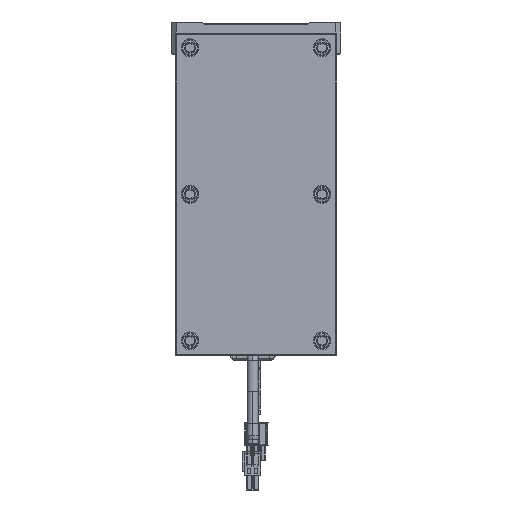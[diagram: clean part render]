
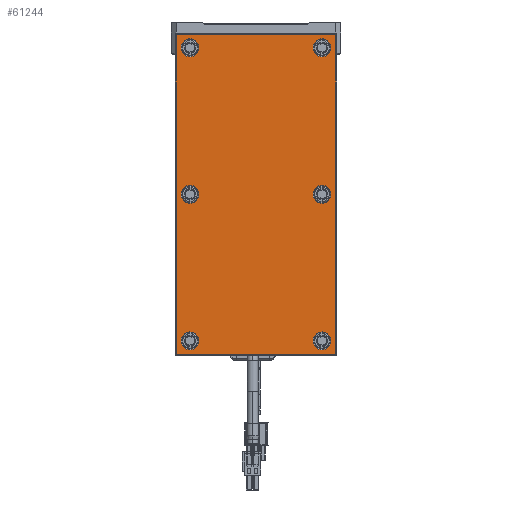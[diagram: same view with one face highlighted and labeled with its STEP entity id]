
A CAD part, front view. The second image highlights one B-rep face of the part: STEP entity #61244.
In plain terms, the highlighted planar face has unit normal (0, -1, 0).
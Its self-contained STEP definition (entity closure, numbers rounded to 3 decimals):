
#59833=CARTESIAN_POINT('',(99.,-7.,-49.));
#59834=DIRECTION('',(0.,-1.,0.));
#59835=DIRECTION('',(0.,0.,-1.));
#59836=AXIS2_PLACEMENT_3D('',#59833,#59834,#59835);
#59838=DIRECTION('',(1.,0.,0.));
#59839=VECTOR('',#59838,198.);
#59840=CARTESIAN_POINT('',(-99.,-7.,
-49.5));
#59841=LINE('',#59840,#59839);
#59842=CARTESIAN_POINT('',(-99.,-7.,-49.));
#59843=DIRECTION('',(0.,-1.,0.));
#59844=DIRECTION('',(-1.,0.,0.));
#59845=AXIS2_PLACEMENT_3D('',#59842,#59843,#59844);
#59847=DIRECTION('',(0.,0.,-1.));
#59848=VECTOR('',#59847,98.);
#59849=CARTESIAN_POINT('',(-99.5,-7.,
49.));
#59850=LINE('',#59849,#59848);
#59851=CARTESIAN_POINT('',(-99.,-7.,49.));
#59852=DIRECTION('',(0.,-1.,0.));
#59853=DIRECTION('',(0.,0.,1.));
#59854=AXIS2_PLACEMENT_3D('',#59851,#59852,#59853);
#59856=DIRECTION('',(-1.,0.,0.));
#59857=VECTOR('',#59856,198.);
#59858=CARTESIAN_POINT('',(99.,-7.,
49.5));
#59859=LINE('',#59858,#59857);
#59860=CARTESIAN_POINT('',(99.,-7.,49.));
#59861=DIRECTION('',(0.,-1.,0.));
#59862=DIRECTION('',(1.,0.,0.));
#59863=AXIS2_PLACEMENT_3D('',#59860,#59861,#59862);
#59865=DIRECTION('',(0.,0.,1.));
#59866=VECTOR('',#59865,98.);
#59867=CARTESIAN_POINT('',(99.5,-7.,
-49.));
#59868=LINE('',#59867,#59866);
#59869=CARTESIAN_POINT('',(-91.,-7.,-41.));
#59870=DIRECTION('',(0.,1.,0.));
#59871=DIRECTION('',(1.,0.,0.));
#59872=AXIS2_PLACEMENT_3D('',#59869,#59870,#59871);
#59874=CARTESIAN_POINT('',(-91.,-7.,-41.));
#59875=DIRECTION('',(0.,1.,0.));
#59876=DIRECTION('',(-1.,0.,0.));
#59877=AXIS2_PLACEMENT_3D('',#59874,#59875,#59876);
#59879=CARTESIAN_POINT('',(0.,-7.,-41.));
#59880=DIRECTION('',(0.,1.,0.));
#59881=DIRECTION('',(1.,0.,0.));
#59882=AXIS2_PLACEMENT_3D('',#59879,#59880,#59881);
#59884=CARTESIAN_POINT('',(0.,-7.,-41.));
#59885=DIRECTION('',(0.,1.,0.));
#59886=DIRECTION('',(-1.,0.,0.));
#59887=AXIS2_PLACEMENT_3D('',#59884,#59885,#59886);
#59889=CARTESIAN_POINT('',(91.,-7.,-41.));
#59890=DIRECTION('',(0.,1.,0.));
#59891=DIRECTION('',(1.,0.,0.));
#59892=AXIS2_PLACEMENT_3D('',#59889,#59890,#59891);
#59894=CARTESIAN_POINT('',(91.,-7.,-41.));
#59895=DIRECTION('',(0.,1.,0.));
#59896=DIRECTION('',(-1.,0.,0.));
#59897=AXIS2_PLACEMENT_3D('',#59894,#59895,#59896);
#59899=CARTESIAN_POINT('',(91.,-7.,41.));
#59900=DIRECTION('',(0.,1.,0.));
#59901=DIRECTION('',(1.,0.,0.));
#59902=AXIS2_PLACEMENT_3D('',#59899,#59900,#59901);
#59904=CARTESIAN_POINT('',(91.,-7.,41.));
#59905=DIRECTION('',(0.,1.,0.));
#59906=DIRECTION('',(-1.,0.,0.));
#59907=AXIS2_PLACEMENT_3D('',#59904,#59905,#59906);
#59909=CARTESIAN_POINT('',(0.,-7.,41.));
#59910=DIRECTION('',(0.,1.,0.));
#59911=DIRECTION('',(1.,0.,0.));
#59912=AXIS2_PLACEMENT_3D('',#59909,#59910,#59911);
#59914=CARTESIAN_POINT('',(0.,-7.,41.));
#59915=DIRECTION('',(0.,1.,0.));
#59916=DIRECTION('',(-1.,0.,0.));
#59917=AXIS2_PLACEMENT_3D('',#59914,#59915,#59916);
#59919=CARTESIAN_POINT('',(-91.,-7.,41.));
#59920=DIRECTION('',(0.,1.,0.));
#59921=DIRECTION('',(1.,0.,0.));
#59922=AXIS2_PLACEMENT_3D('',#59919,#59920,#59921);
#59924=CARTESIAN_POINT('',(-91.,-7.,41.));
#59925=DIRECTION('',(0.,1.,0.));
#59926=DIRECTION('',(-1.,0.,0.));
#59927=AXIS2_PLACEMENT_3D('',#59924,#59925,#59926);
#60985=CARTESIAN_POINT('',(99.,-7.,-49.5));
#60986=CARTESIAN_POINT('',(99.5,-7.,-49.));
#60987=VERTEX_POINT('',#60985);
#60988=VERTEX_POINT('',#60986);
#60993=CARTESIAN_POINT('',(99.5,-7.,
49.));
#60994=VERTEX_POINT('',#60993);
#60997=CARTESIAN_POINT('',(99.,-7.,49.5));
#60998=VERTEX_POINT('',#60997);
#61001=CARTESIAN_POINT('',(-99.,-7.,
49.5));
#61002=VERTEX_POINT('',#61001);
#61005=CARTESIAN_POINT('',(-99.5,-7.,49.));
#61006=VERTEX_POINT('',#61005);
#61009=CARTESIAN_POINT('',(-99.5,-7.,
-49.));
#61010=VERTEX_POINT('',#61009);
#61013=CARTESIAN_POINT('',(-99.,-7.,-49.5));
#61014=VERTEX_POINT('',#61013);
#61041=CARTESIAN_POINT('',(-85.45,-7.,-41.));
#61042=CARTESIAN_POINT('',(-96.55,-7.,-41.));
#61043=VERTEX_POINT('',#61041);
#61044=VERTEX_POINT('',#61042);
#61057=CARTESIAN_POINT('',(5.55,-7.,-41.));
#61058=CARTESIAN_POINT('',(-5.55,-7.,-41.));
#61059=VERTEX_POINT('',#61057);
#61060=VERTEX_POINT('',#61058);
#61081=CARTESIAN_POINT('',(96.55,-7.,-41.));
#61082=CARTESIAN_POINT('',(85.45,-7.,-41.));
#61083=VERTEX_POINT('',#61081);
#61084=VERTEX_POINT('',#61082);
#61097=CARTESIAN_POINT('',(96.55,-7.,41.));
#61098=CARTESIAN_POINT('',(85.45,-7.,41.));
#61099=VERTEX_POINT('',#61097);
#61100=VERTEX_POINT('',#61098);
#61105=CARTESIAN_POINT('',(5.55,-7.,41.));
#61106=CARTESIAN_POINT('',(-5.55,-7.,41.));
#61107=VERTEX_POINT('',#61105);
#61108=VERTEX_POINT('',#61106);
#61129=CARTESIAN_POINT('',(-85.45,-7.,41.));
#61130=CARTESIAN_POINT('',(-96.55,-7.,41.));
#61131=VERTEX_POINT('',#61129);
#61132=VERTEX_POINT('',#61130);
#61185=CARTESIAN_POINT('',(0.,-7.,0.));
#61186=DIRECTION('',(0.,1.,0.));
#61187=DIRECTION('',(1.,0.,0.));
#61188=AXIS2_PLACEMENT_3D('',#61185,#61186,#61187);
#61189=PLANE('',#61188);
#61191=ORIENTED_EDGE('',*,*,#61190,.F.);
#61193=ORIENTED_EDGE('',*,*,#61192,.F.);
#61195=ORIENTED_EDGE('',*,*,#61194,.F.);
#61197=ORIENTED_EDGE('',*,*,#61196,.F.);
#61199=ORIENTED_EDGE('',*,*,#61198,.F.);
#61201=ORIENTED_EDGE('',*,*,#61200,.F.);
#61203=ORIENTED_EDGE('',*,*,#61202,.F.);
#61205=ORIENTED_EDGE('',*,*,#61204,.F.);
#61206=EDGE_LOOP('',(#61191,#61193,#61195,#61197,#61199,#61201,#61203,#61205));
#61207=FACE_OUTER_BOUND('',#61206,.F.);
#61209=ORIENTED_EDGE('',*,*,#61208,.F.);
#61211=ORIENTED_EDGE('',*,*,#61210,.F.);
#61212=EDGE_LOOP('',(#61209,#61211));
#61213=FACE_BOUND('',#61212,.F.);
#61215=ORIENTED_EDGE('',*,*,#61214,.F.);
#61217=ORIENTED_EDGE('',*,*,#61216,.F.);
#61218=EDGE_LOOP('',(#61215,#61217));
#61219=FACE_BOUND('',#61218,.F.);
#61221=ORIENTED_EDGE('',*,*,#61220,.F.);
#61223=ORIENTED_EDGE('',*,*,#61222,.F.);
#61224=EDGE_LOOP('',(#61221,#61223));
#61225=FACE_BOUND('',#61224,.F.);
#61227=ORIENTED_EDGE('',*,*,#61226,.F.);
#61229=ORIENTED_EDGE('',*,*,#61228,.F.);
#61230=EDGE_LOOP('',(#61227,#61229));
#61231=FACE_BOUND('',#61230,.F.);
#61233=ORIENTED_EDGE('',*,*,#61232,.F.);
#61235=ORIENTED_EDGE('',*,*,#61234,.F.);
#61236=EDGE_LOOP('',(#61233,#61235));
#61237=FACE_BOUND('',#61236,.F.);
#61239=ORIENTED_EDGE('',*,*,#61238,.F.);
#61241=ORIENTED_EDGE('',*,*,#61240,.F.);
#61242=EDGE_LOOP('',(#61239,#61241));
#61243=FACE_BOUND('',#61242,.F.);
#61244=ADVANCED_FACE('',(#61207,#61213,#61219,#61225,#61231,#61237,#61243),
#61189,.F.);
#59837=CIRCLE('',#59836,0.5);
#59846=CIRCLE('',#59845,0.5);
#59855=CIRCLE('',#59854,0.5);
#59864=CIRCLE('',#59863,0.5);
#59873=CIRCLE('',#59872,5.55);
#59878=CIRCLE('',#59877,5.55);
#59883=CIRCLE('',#59882,5.55);
#59888=CIRCLE('',#59887,5.55);
#59893=CIRCLE('',#59892,5.55);
#59898=CIRCLE('',#59897,5.55);
#59903=CIRCLE('',#59902,5.55);
#59908=CIRCLE('',#59907,5.55);
#59913=CIRCLE('',#59912,5.55);
#59918=CIRCLE('',#59917,5.55);
#59923=CIRCLE('',#59922,5.55);
#59928=CIRCLE('',#59927,5.55);
#61190=EDGE_CURVE('',#60987,#60988,#59837,.T.);
#61192=EDGE_CURVE('',#61014,#60987,#59841,.T.);
#61194=EDGE_CURVE('',#61010,#61014,#59846,.T.);
#61196=EDGE_CURVE('',#61006,#61010,#59850,.T.);
#61198=EDGE_CURVE('',#61002,#61006,#59855,.T.);
#61200=EDGE_CURVE('',#60998,#61002,#59859,.T.);
#61202=EDGE_CURVE('',#60994,#60998,#59864,.T.);
#61204=EDGE_CURVE('',#60988,#60994,#59868,.T.);
#61208=EDGE_CURVE('',#61043,#61044,#59873,.T.);
#61210=EDGE_CURVE('',#61044,#61043,#59878,.T.);
#61214=EDGE_CURVE('',#61059,#61060,#59883,.T.);
#61216=EDGE_CURVE('',#61060,#61059,#59888,.T.);
#61220=EDGE_CURVE('',#61083,#61084,#59893,.T.);
#61222=EDGE_CURVE('',#61084,#61083,#59898,.T.);
#61226=EDGE_CURVE('',#61099,#61100,#59903,.T.);
#61228=EDGE_CURVE('',#61100,#61099,#59908,.T.);
#61232=EDGE_CURVE('',#61107,#61108,#59913,.T.);
#61234=EDGE_CURVE('',#61108,#61107,#59918,.T.);
#61238=EDGE_CURVE('',#61131,#61132,#59923,.T.);
#61240=EDGE_CURVE('',#61132,#61131,#59928,.T.);
